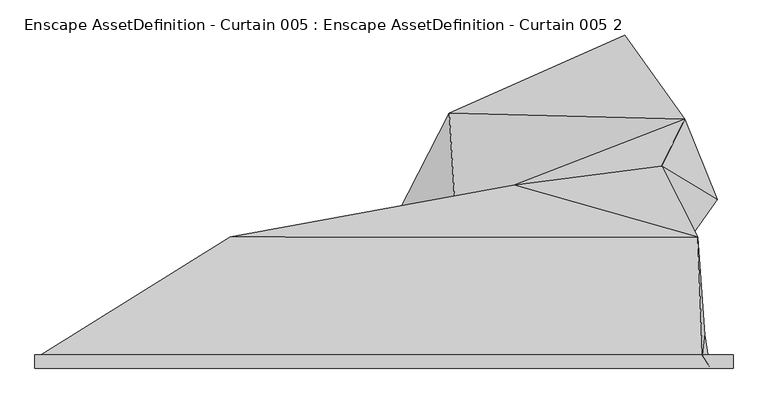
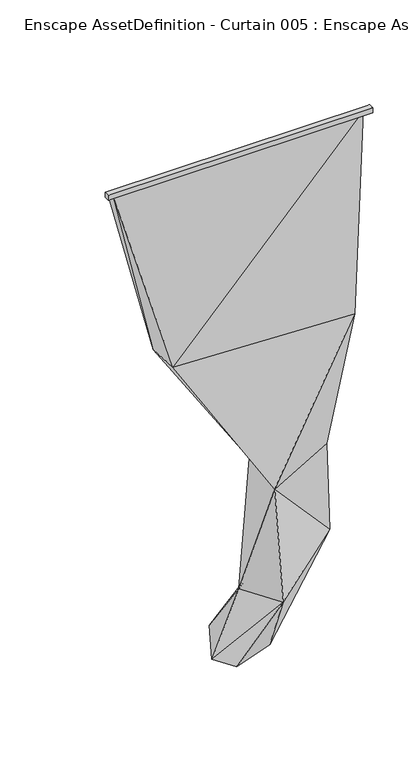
"""IFC4 building model written with IfcOpenShell, lengths in millimetres: geographic element geometry, Enscape AssetDefinition - Curtain 005 : Enscape AssetDefinition - Curtain 005 2."""

import ifcopenshell
import ifcopenshell.guid

model = None  # the IFC model being written
_history = None  # IfcOwnerHistory: only IFC2X3 demands one
_inside = {}  # id of a spatial element -> (the spatial element, [elements in it])
_under = {}  # id of a project, library or spatial element -> (it, [spatial elements below it])
_declared = {}  # id of a project -> (the project, [libraries it declares])
_typed = {}  # id of a type object -> (the type object, [elements of that type])
_made_of = {}  # id of a material, layer set ... -> (it, [elements and type objects made of it])


def new_model(schema):
    """Start an empty IFC model of exactly this schema.

    Asked for "IFC4X3", IfcOpenShell would pick the latest addendum, in which some entities
    have other attributes; the version numbers below select the first issue.
    IFC2X3 requires an IfcOwnerHistory on every rooted entity: one is made here for all.
    """
    global model, _history
    if schema == "IFC4X3":
        model = ifcopenshell.file(schema_version=(4, 3, 0, 0))
    else:
        model = ifcopenshell.file(schema=schema)
    _inside.clear()
    _under.clear()
    _declared.clear()
    _typed.clear()
    _made_of.clear()
    _history = None
    if model.schema == "IFC2X3":
        org = make("IfcOrganization", Name="unknown")
        user = make(
            "IfcPersonAndOrganization",
            ThePerson=make("IfcPerson", FamilyName="unknown"),
            TheOrganization=org,
        )
        app = make(
            "IfcApplication",
            ApplicationDeveloper=org,
            Version="unknown",
            ApplicationFullName="unknown",
            ApplicationIdentifier="unknown",
        )
        _history = make(
            "IfcOwnerHistory",
            OwningUser=user,
            OwningApplication=app,
            ChangeAction="ADDED",
            CreationDate=0,
        )
    return model


def make(cls, **values):
    """One entity of the class cls with the attributes given. An attribute that is None is left unset."""
    return model.create_entity(
        cls, **{name: value for name, value in values.items() if value is not None}
    )


def rooted(cls, **values):
    """An entity with a GlobalId (a new one), such as an element, a storey or a relation."""
    return make(cls, GlobalId=ifcopenshell.guid.new(), OwnerHistory=_history, **values)


def si_unit(unit_type, name, prefix=None):
    """IfcSIUnit, for example si_unit("LENGTHUNIT", "METRE", prefix="MILLI")."""
    return make("IfcSIUnit", UnitType=unit_type, Prefix=prefix, Name=name)


def assignment(units):
    """IfcUnitAssignment: the units of a project."""
    return None if units is None else make("IfcUnitAssignment", Units=units)


def point(xyz):
    """IfcCartesianPoint."""
    return None if xyz is None else make("IfcCartesianPoint", Coordinates=xyz)


def direction(xyz):
    """IfcDirection."""
    return None if xyz is None else make("IfcDirection", DirectionRatios=xyz)


def frame(location, z_axis=None, x_axis=None):
    """IfcAxis2Placement3D, a coordinate frame: its origin and axes. An axis left out is left unset."""
    return make(
        "IfcAxis2Placement3D",
        Location=point(location),
        Axis=direction(z_axis),
        RefDirection=direction(x_axis),
    )


def origin():
    """The frame at (0, 0, 0) with its axes left unset."""
    return frame((0.0, 0.0, 0.0))


def place(relative_to, where):
    """IfcLocalPlacement: puts the frame where relative to a parent placement (None: the world)."""
    return make(
        "IfcLocalPlacement", PlacementRelTo=relative_to, RelativePlacement=where
    )


def context(
    kind, dimensions, precision=None, world=None, true_north=None, identifier=None
):
    """IfcGeometricRepresentationContext, for example the 3D "Model" context."""
    return make(
        "IfcGeometricRepresentationContext",
        ContextIdentifier=identifier,
        ContextType=kind,
        CoordinateSpaceDimension=dimensions,
        Precision=precision,
        WorldCoordinateSystem=world,
        TrueNorth=true_north,
    )


def project(units=None, contexts=None):
    """IfcProject with its units and contexts."""
    return rooted(
        "IfcProject",
        Name="project",
        RepresentationContexts=contexts,
        UnitsInContext=assignment(units),
    )


def spatial(cls, under=None, at=None, **own):
    """A site, building, storey or space (cls), placed at a placement, below another one or the project."""
    s = rooted(cls, ObjectPlacement=at, **own)
    if under is not None:
        _under.setdefault(under.id(), (under, []))[1].append(s)
    return s


def point_list(points):
    """IfcCartesianPointList2D or 3D."""
    cls = (
        "IfcCartesianPointList2D" if len(points[0]) == 2 else "IfcCartesianPointList3D"
    )
    return make(cls, CoordList=points)


def triangles(points, corners, closed=None, point_numbers=None):
    """IfcTriangulatedFaceSet: each triangle names its three corners, points numbered from 1."""
    return make(
        "IfcTriangulatedFaceSet",
        Coordinates=point_list(points),
        Closed=closed,
        CoordIndex=corners,
        PnIndex=point_numbers,
    )


def shape(context_of_items, identifier, shape_type, items):
    """IfcShapeRepresentation: the items that make up one representation, for example the "Body"."""
    return make(
        "IfcShapeRepresentation",
        ContextOfItems=context_of_items,
        RepresentationIdentifier=identifier,
        RepresentationType=shape_type,
        Items=items,
    )


def source(mapping_origin, context_of_items, identifier, shape_type, items):
    """IfcRepresentationMap: a shape defined once, which mapped items show again and again."""
    return make(
        "IfcRepresentationMap",
        MappingOrigin=mapping_origin,
        MappedRepresentation=shape(context_of_items, identifier, shape_type, items),
    )


def transform(
    local_origin,
    x_axis=None,
    y_axis=None,
    z_axis=None,
    scale=None,
    scale2=None,
    scale3=None,
    uniform=True,
):
    """IfcCartesianTransformationOperator3D, or its non-uniform kind. x_axis, y_axis, z_axis: its Axis1, 2, 3."""
    if uniform:
        return make(
            "IfcCartesianTransformationOperator3D",
            Axis1=direction(x_axis),
            Axis2=direction(y_axis),
            LocalOrigin=point(local_origin),
            Scale=scale,
            Axis3=direction(z_axis),
        )
    return make(
        "IfcCartesianTransformationOperator3DnonUniform",
        Axis1=direction(x_axis),
        Axis2=direction(y_axis),
        LocalOrigin=point(local_origin),
        Scale=scale,
        Axis3=direction(z_axis),
        Scale2=scale2,
        Scale3=scale3,
    )


def mapped(mapping_source, mapping_target):
    """IfcMappedItem: shows the shape of a source again, moved by a transform."""
    return make(
        "IfcMappedItem", MappingSource=mapping_source, MappingTarget=mapping_target
    )


def made_of(thing, what):
    """Note that an element or type object is made of a material, layer set ...; save() writes the relation."""
    if what is not None:
        _made_of.setdefault(what.id(), (what, []))[1].append(thing)
    return thing


def element(
    cls,
    number,
    at=None,
    inside=None,
    cuts=None,
    type_object=None,
    material=None,
    context=None,
    identifier="Body",
    shape_type=None,
    held_by="IfcProductDefinitionShape",
    body=None,
    shapes=None,
    **own,
):
    """One element of the class cls, such as IfcWall. Its Tag is "e" and its number.

    at: its placement. inside: the storey or other place that contains it. cuts: it is an
    opening in that element (IfcRelVoidsElement). A single representation is given by context,
    identifier, shape_type and body (its items); several are given by shapes. held_by: the class
    of the entity that holds the representations. save() writes the other relations.
    """
    e = rooted(cls, Tag="e%d" % number, ObjectPlacement=at, **own)
    if body is not None:
        shapes = [shape(context, identifier, shape_type, body)]
    if shapes is not None:
        e.Representation = make(held_by, Representations=shapes)
    if inside is not None:
        _inside.setdefault(inside.id(), (inside, []))[1].append(e)
    if cuts is not None:
        rooted(
            "IfcRelVoidsElement", RelatingBuildingElement=cuts, RelatedOpeningElement=e
        )
    if type_object is not None:
        _typed.setdefault(type_object.id(), (type_object, []))[1].append(e)
    return made_of(e, material)


def aggregate(whole, parts):
    """IfcRelAggregates: a whole, such as a stair, and the parts it consists of."""
    return rooted("IfcRelAggregates", RelatingObject=whole, RelatedObjects=parts)


def save(model, path):
    """Write the relations noted so far, then the file.

    IfcRelAggregates (storeys below a building ...), IfcRelContainedInSpatialStructure (elements
    in a storey), IfcRelDefinesByType, IfcRelAssociatesMaterial and IfcRelDeclares: one each for
    every whole, place, type object, material and project.
    """
    for whole, parts in _under.values():
        aggregate(whole, parts)
    for where, things in _inside.values():
        rooted(
            "IfcRelContainedInSpatialStructure",
            RelatedElements=things,
            RelatingStructure=where,
        )
    for kind, things in _typed.values():
        rooted("IfcRelDefinesByType", RelatedObjects=things, RelatingType=kind)
    for what, things in _made_of.values():
        rooted("IfcRelAssociatesMaterial", RelatedObjects=things, RelatingMaterial=what)
    for by, libraries in _declared.values():
        rooted("IfcRelDeclares", RelatingContext=by, RelatedDefinitions=libraries)
    model.write(path)


def enscape_assetdefinition_curtain_005_enscape_assetdefinition_cb05bf78(model_context):
    return source(origin(), model_context, "Body", "Tessellation", [
        triangles([(10.5911515, 381.2097982, 0.0001014), (365.2563752, 515.6965384, 1363.279723), (203.8854838, 371.7660796, 489.5501693), (380.5031553, 111.298003, 480.332527), (105.5091667, 228.3690911, 0.0001014), (410.2852037, 337.2499815, 0.0001014), (933.2197815, 474.562603, 636.9538536), (777.5139513, 568.0174001, 1451.4602417), (342.7682857, 153.8939858, 1349.3337719), (816.015671, 307.992029, 1449.8325794), (841.9063871, 699.721534, 695.6191681), (878.6032751, 369.9957298, 2570.0315002), (891.7764536, 37.5198256, 4195.8232521), (898.31479, 94.5129356, 2560.8137489), (911.5875263, 5.924891, 4195.8232521), (-941.7821949, 5.924891, 4195.8232521), (-410.0674118, 151.467744, 2567.3037598), (-961.5935583, 37.5198256, 4195.8232521), (-429.9786964, 369.2442132, 2576.5218018), (674.4212614, 935.6376572, 0.0001014), (182.7743088, 717.5035154, 0.0001014), (757.1194839, 724.8400589, 0.0001014), (-977.0554052, 38.5390039, 4161.2175156), (977.4649733, 38.539072, 4200.000032), (-977.0554052, 0.4621512, 4199.99916), (-977.0554052, 0.4621512, 4161.2175156), (977.4649733, 0.4621512, 4161.2178062), (977.4649733, 0.4621512, 4200.000032), (-977.0554052, 38.5390039, 4199.99916), (977.4649733, 38.539072, 4161.2178062)], [[27, 28, 26], [28, 24, 25], [24, 30, 29], [30, 27, 23], [23, 26, 29], [28, 27, 24], [26, 28, 25], [25, 24, 29], [29, 30, 23], [23, 27, 26], [29, 26, 25], [24, 27, 30], [20, 22, 21], [20, 21, 11], [11, 22, 20], [16, 15, 18], [18, 15, 13], [18, 13, 19], [19, 16, 18], [17, 16, 19], [17, 15, 16], [2, 17, 19], [14, 15, 17], [15, 14, 13], [19, 12, 2], [13, 14, 12], [13, 12, 19], [8, 11, 2], [12, 8, 2], [14, 10, 12], [12, 10, 8], [17, 9, 14], [9, 17, 2], [14, 9, 10], [10, 7, 8], [7, 22, 11], [7, 10, 9], [8, 7, 11], [22, 7, 6], [22, 6, 21], [5, 21, 6], [4, 7, 9], [7, 4, 6], [4, 5, 6], [4, 9, 3], [11, 21, 3], [3, 9, 2], [2, 11, 3], [5, 4, 1], [1, 4, 3], [21, 5, 1], [21, 1, 3]]),
    ])


if __name__ == "__main__":
    model = new_model("IFC4")
    model_context = context("Model", 3, world=origin())
    ifc_project = project(units=[si_unit("LENGTHUNIT", "METRE", prefix="MILLI")], contexts=[model_context])
    site = spatial("IfcSite", under=ifc_project)
    building = spatial("IfcBuilding", under=site)
    placement = place(None, origin())
    enscape_assetdefinition_curtain_005_enscape_assetdefinition_shape = enscape_assetdefinition_curtain_005_enscape_assetdefinition_cb05bf78(model_context)
    element("IfcGeographicElement", 1, ObjectType="Enscape AssetDefinition - Curtain 005 : Enscape AssetDefinition - Curtain 005 2", at=placement, inside=building, context=model_context, shape_type="MappedRepresentation", body=[
        mapped(enscape_assetdefinition_curtain_005_enscape_assetdefinition_shape, transform((0.0, 0.0, 0.0), x_axis=(1.0, 0.0, 0.0), y_axis=(0.0, 1.0, 0.0), z_axis=(0.0, 0.0, 1.0))),
    ])
    save(model, "model.ifc")
